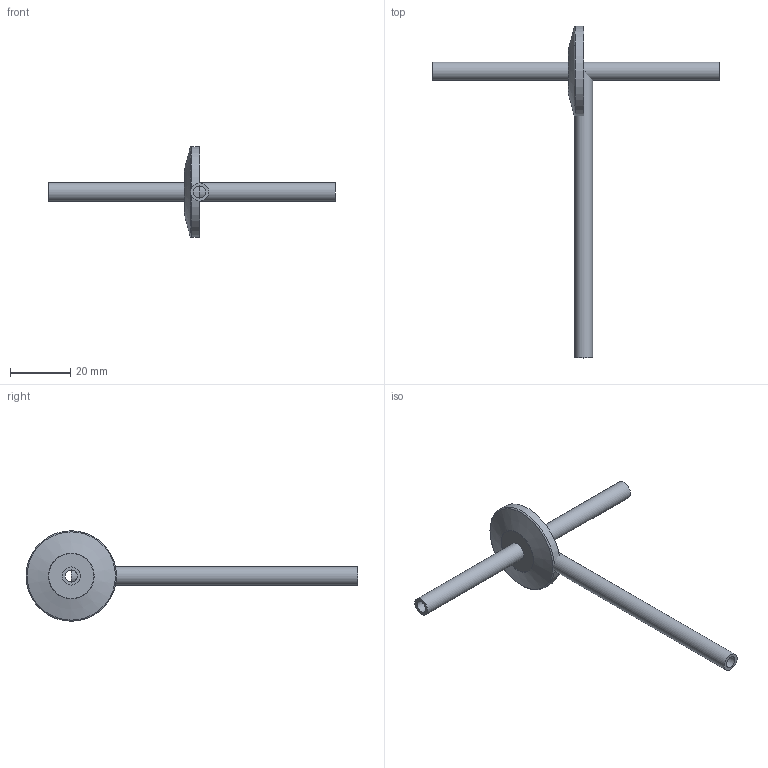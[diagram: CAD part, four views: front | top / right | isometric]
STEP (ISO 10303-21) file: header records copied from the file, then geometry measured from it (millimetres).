
FILE_DESCRIPTION( ( 'Unknown' ), '1' );
FILE_NAME( 'X:/Daten ( aktueller Bestand )/Projekte und Zeichnungen/Solid Edge/8 Adapter KF/KF Flüssigkeitsdurchführung,einfach/1862-6.stp', 'Unknown', ( 'Unknown' ), ( 'Unknown' ), 'XStep 1.0', 'Unknown', ' ' );
FILE_SCHEMA( ( 'automotive_design' ) );
Length unit declared in the file: millimetre
Products named in the file (3): Assem1; 1862-6.1; 1866-6.2
Bounding box: 95 x 110 x 30 mm (x, y, z)
Volume: 7778.1 mm3; surface area: 9889 mm2
Topology: 4 solids, 4 shells, 34 faces, 64 edges, 42 vertices
Faces by surface type: plane 12, cylinder 12, cone 6, torus 4
Full cylindrical faces by diameter (mm): 4 x2, 6 x4, 9.7 x2, 17.2 x2, 30 x2
Entity records: 508 total; most frequent: DIRECTION 74, CARTESIAN_POINT 54, AXIS2_PLACEMENT_3D 37, EDGE_LOOP 34, ORIENTED_EDGE 34, FACE_OUTER_BOUND 25, ADVANCED_FACE 17, EDGE_CURVE 17
